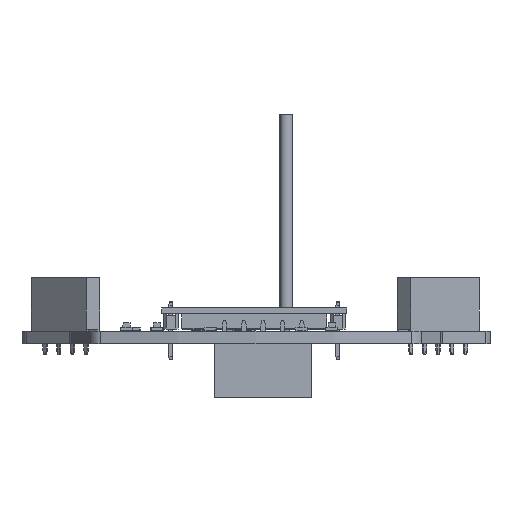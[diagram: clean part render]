
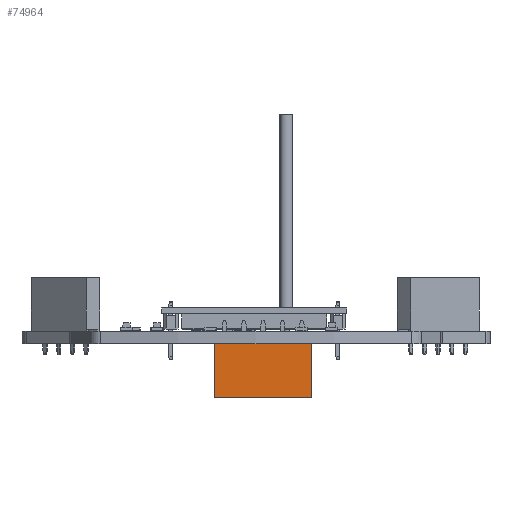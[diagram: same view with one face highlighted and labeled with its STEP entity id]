
A CAD part, left-side view. The second image highlights one B-rep face of the part: STEP entity #74964.
In plain terms, the highlighted free-form (B-spline) face has degree [1, 1] with [2, 2] control points.
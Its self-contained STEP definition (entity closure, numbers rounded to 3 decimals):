
#73008 = B_SPLINE_SURFACE_WITH_KNOTS('',1,1,(
    (#73009,#73010)
    ,(#73011,#73012
    )),.UNSPECIFIED.,.F.,.F.,.F.,(2,2),(2,2),(0.,2.54),(-7.,0.),
  .PIECEWISE_BEZIER_KNOTS.);
#73009 = CARTESIAN_POINT('',(-1.27,-11.43,7.));
#73010 = CARTESIAN_POINT('',(-1.27,-11.43,0.));
#73011 = CARTESIAN_POINT('',(1.27,-11.43,7.));
#73012 = CARTESIAN_POINT('',(1.27,-11.43,0.));
#73033 = B_SPLINE_SURFACE_WITH_KNOTS('',1,1,(
    (#73034,#73035)
    ,(#73036,#73037
    )),.UNSPECIFIED.,.F.,.F.,.F.,(2,2),(2,2),(-12.7,0.),(
    0.,2.54),.PIECEWISE_BEZIER_KNOTS.);
#73034 = CARTESIAN_POINT('',(1.27,1.27,7.));
#73035 = CARTESIAN_POINT('',(-1.27,1.27,7.));
#73036 = CARTESIAN_POINT('',(1.27,-11.43,7.));
#73037 = CARTESIAN_POINT('',(-1.27,-11.43,7.));
#73058 = B_SPLINE_SURFACE_WITH_KNOTS('',1,1,(
    (#73059,#73060)
    ,(#73061,#73062
    )),.UNSPECIFIED.,.F.,.F.,.F.,(2,2),(2,2),(0.,2.54),(-7.,0.),
  .PIECEWISE_BEZIER_KNOTS.);
#73059 = CARTESIAN_POINT('',(1.27,1.27,7.));
#73060 = CARTESIAN_POINT('',(1.27,1.27,0.));
#73061 = CARTESIAN_POINT('',(-1.27,1.27,7.));
#73062 = CARTESIAN_POINT('',(-1.27,1.27,0.));
#73096 = VERTEX_POINT('',#73097);
#73097 = CARTESIAN_POINT('',(-1.27,-11.43,0.));
#73111 = B_SPLINE_SURFACE_WITH_KNOTS('',1,1,(
    (#73112,#73113)
    ,(#73114,#73115
    )),.UNSPECIFIED.,.F.,.F.,.F.,(2,2),(2,2),(-12.7,0.)
  ,(2.117,2.54),.PIECEWISE_BEZIER_KNOTS.);
#73112 = CARTESIAN_POINT('',(-0.847,1.27,0.));
#73113 = CARTESIAN_POINT('',(-1.27,1.27,0.));
#73114 = CARTESIAN_POINT('',(-0.847,-11.43,0.));
#73115 = CARTESIAN_POINT('',(-1.27,-11.43,0.));
#73122 = EDGE_CURVE('',#73096,#73123,#73125,.T.);
#73123 = VERTEX_POINT('',#73124);
#73124 = CARTESIAN_POINT('',(-1.27,-11.43,7.));
#73125 = SURFACE_CURVE('',#73126,(#73129,#73135),.PCURVE_S1.);
#73126 = B_SPLINE_CURVE_WITH_KNOTS('',1,(#73127,#73128),.UNSPECIFIED.,
  .F.,.F.,(2,2),(0.,7.),.PIECEWISE_BEZIER_KNOTS.);
#73127 = CARTESIAN_POINT('',(-1.27,-11.43,0.));
#73128 = CARTESIAN_POINT('',(-1.27,-11.43,7.));
#73129 = PCURVE('',#73008,#73130);
#73130 = DEFINITIONAL_REPRESENTATION('',(#73131),#73134);
#73131 = B_SPLINE_CURVE_WITH_KNOTS('',1,(#73132,#73133),.UNSPECIFIED.,
  .F.,.F.,(2,2),(0.,7.),.PIECEWISE_BEZIER_KNOTS.);
#73132 = CARTESIAN_POINT('',(0.,0.));
#73133 = CARTESIAN_POINT('',(0.,-7.));
#73134 = ( GEOMETRIC_REPRESENTATION_CONTEXT(2) 
PARAMETRIC_REPRESENTATION_CONTEXT() REPRESENTATION_CONTEXT('2D SPACE',''
  ) );
#73135 = PCURVE('',#73136,#73141);
#73136 = B_SPLINE_SURFACE_WITH_KNOTS('',1,1,(
    (#73137,#73138)
    ,(#73139,#73140
    )),.UNSPECIFIED.,.F.,.F.,.F.,(2,2),(2,2),(0.,12.7),(-7.,0.),
  .PIECEWISE_BEZIER_KNOTS.);
#73137 = CARTESIAN_POINT('',(-1.27,1.27,7.));
#73138 = CARTESIAN_POINT('',(-1.27,1.27,0.));
#73139 = CARTESIAN_POINT('',(-1.27,-11.43,7.));
#73140 = CARTESIAN_POINT('',(-1.27,-11.43,0.));
#73141 = DEFINITIONAL_REPRESENTATION('',(#73142),#73145);
#73142 = B_SPLINE_CURVE_WITH_KNOTS('',1,(#73143,#73144),.UNSPECIFIED.,
  .F.,.F.,(2,2),(0.,7.),.PIECEWISE_BEZIER_KNOTS.);
#73143 = CARTESIAN_POINT('',(12.7,-0.));
#73144 = CARTESIAN_POINT('',(12.7,-7.));
#73145 = ( GEOMETRIC_REPRESENTATION_CONTEXT(2) 
PARAMETRIC_REPRESENTATION_CONTEXT() REPRESENTATION_CONTEXT('2D SPACE',''
  ) );
#73284 = VERTEX_POINT('',#73285);
#73285 = CARTESIAN_POINT('',(-1.27,1.27,7.));
#73303 = EDGE_CURVE('',#73304,#73284,#73306,.T.);
#73304 = VERTEX_POINT('',#73305);
#73305 = CARTESIAN_POINT('',(-1.27,1.27,0.));
#73306 = SURFACE_CURVE('',#73307,(#73310,#73316),.PCURVE_S1.);
#73307 = B_SPLINE_CURVE_WITH_KNOTS('',1,(#73308,#73309),.UNSPECIFIED.,
  .F.,.F.,(2,2),(0.,7.),.PIECEWISE_BEZIER_KNOTS.);
#73308 = CARTESIAN_POINT('',(-1.27,1.27,0.));
#73309 = CARTESIAN_POINT('',(-1.27,1.27,7.));
#73310 = PCURVE('',#73058,#73311);
#73311 = DEFINITIONAL_REPRESENTATION('',(#73312),#73315);
#73312 = B_SPLINE_CURVE_WITH_KNOTS('',1,(#73313,#73314),.UNSPECIFIED.,
  .F.,.F.,(2,2),(0.,7.),.PIECEWISE_BEZIER_KNOTS.);
#73313 = CARTESIAN_POINT('',(2.54,-0.));
#73314 = CARTESIAN_POINT('',(2.54,-7.));
#73315 = ( GEOMETRIC_REPRESENTATION_CONTEXT(2) 
PARAMETRIC_REPRESENTATION_CONTEXT() REPRESENTATION_CONTEXT('2D SPACE',''
  ) );
#73316 = PCURVE('',#73136,#73317);
#73317 = DEFINITIONAL_REPRESENTATION('',(#73318),#73321);
#73318 = B_SPLINE_CURVE_WITH_KNOTS('',1,(#73319,#73320),.UNSPECIFIED.,
  .F.,.F.,(2,2),(0.,7.),.PIECEWISE_BEZIER_KNOTS.);
#73319 = CARTESIAN_POINT('',(0.,0.));
#73320 = CARTESIAN_POINT('',(0.,-7.));
#73321 = ( GEOMETRIC_REPRESENTATION_CONTEXT(2) 
PARAMETRIC_REPRESENTATION_CONTEXT() REPRESENTATION_CONTEXT('2D SPACE',''
  ) );
#73430 = EDGE_CURVE('',#73284,#73123,#73431,.T.);
#73431 = SURFACE_CURVE('',#73432,(#73435,#73441),.PCURVE_S1.);
#73432 = B_SPLINE_CURVE_WITH_KNOTS('',1,(#73433,#73434),.UNSPECIFIED.,
  .F.,.F.,(2,2),(0.,12.7),.PIECEWISE_BEZIER_KNOTS.);
#73433 = CARTESIAN_POINT('',(-1.27,1.27,7.));
#73434 = CARTESIAN_POINT('',(-1.27,-11.43,7.));
#73435 = PCURVE('',#73033,#73436);
#73436 = DEFINITIONAL_REPRESENTATION('',(#73437),#73440);
#73437 = B_SPLINE_CURVE_WITH_KNOTS('',1,(#73438,#73439),.UNSPECIFIED.,
  .F.,.F.,(2,2),(0.,12.7),.PIECEWISE_BEZIER_KNOTS.);
#73438 = CARTESIAN_POINT('',(-12.7,2.54));
#73439 = CARTESIAN_POINT('',(0.,2.54));
#73440 = ( GEOMETRIC_REPRESENTATION_CONTEXT(2) 
PARAMETRIC_REPRESENTATION_CONTEXT() REPRESENTATION_CONTEXT('2D SPACE',''
  ) );
#73441 = PCURVE('',#73136,#73442);
#73442 = DEFINITIONAL_REPRESENTATION('',(#73443),#73446);
#73443 = B_SPLINE_CURVE_WITH_KNOTS('',1,(#73444,#73445),.UNSPECIFIED.,
  .F.,.F.,(2,2),(0.,12.7),.PIECEWISE_BEZIER_KNOTS.);
#73444 = CARTESIAN_POINT('',(0.,-7.));
#73445 = CARTESIAN_POINT('',(12.7,-7.));
#73446 = ( GEOMETRIC_REPRESENTATION_CONTEXT(2) 
PARAMETRIC_REPRESENTATION_CONTEXT() REPRESENTATION_CONTEXT('2D SPACE',''
  ) );
#73981 = EDGE_CURVE('',#73304,#73096,#73982,.T.);
#73982 = SURFACE_CURVE('',#73983,(#73986,#73992),.PCURVE_S1.);
#73983 = B_SPLINE_CURVE_WITH_KNOTS('',1,(#73984,#73985),.UNSPECIFIED.,
  .F.,.F.,(2,2),(0.,12.7),.PIECEWISE_BEZIER_KNOTS.);
#73984 = CARTESIAN_POINT('',(-1.27,1.27,0.));
#73985 = CARTESIAN_POINT('',(-1.27,-11.43,0.));
#73986 = PCURVE('',#73111,#73987);
#73987 = DEFINITIONAL_REPRESENTATION('',(#73988),#73991);
#73988 = B_SPLINE_CURVE_WITH_KNOTS('',1,(#73989,#73990),.UNSPECIFIED.,
  .F.,.F.,(2,2),(0.,12.7),.PIECEWISE_BEZIER_KNOTS.);
#73989 = CARTESIAN_POINT('',(-12.7,2.54));
#73990 = CARTESIAN_POINT('',(0.,2.54));
#73991 = ( GEOMETRIC_REPRESENTATION_CONTEXT(2) 
PARAMETRIC_REPRESENTATION_CONTEXT() REPRESENTATION_CONTEXT('2D SPACE',''
  ) );
#73992 = PCURVE('',#73136,#73993);
#73993 = DEFINITIONAL_REPRESENTATION('',(#73994),#73997);
#73994 = B_SPLINE_CURVE_WITH_KNOTS('',1,(#73995,#73996),.UNSPECIFIED.,
  .F.,.F.,(2,2),(0.,12.7),.PIECEWISE_BEZIER_KNOTS.);
#73995 = CARTESIAN_POINT('',(0.,0.));
#73996 = CARTESIAN_POINT('',(12.7,-0.));
#73997 = ( GEOMETRIC_REPRESENTATION_CONTEXT(2) 
PARAMETRIC_REPRESENTATION_CONTEXT() REPRESENTATION_CONTEXT('2D SPACE',''
  ) );
#74964 = ADVANCED_FACE('',(#74965),#73136,.F.);
#74965 = FACE_BOUND('',#74966,.F.);
#74966 = EDGE_LOOP('',(#74967,#74968,#74969,#74970));
#74967 = ORIENTED_EDGE('',*,*,#73303,.T.);
#74968 = ORIENTED_EDGE('',*,*,#73430,.T.);
#74969 = ORIENTED_EDGE('',*,*,#73122,.F.);
#74970 = ORIENTED_EDGE('',*,*,#73981,.F.);
